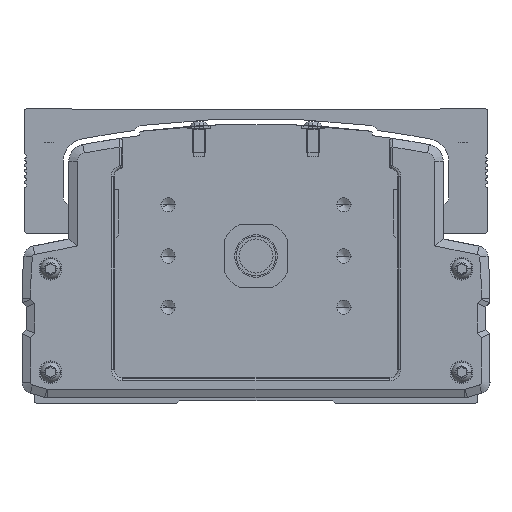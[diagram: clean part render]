
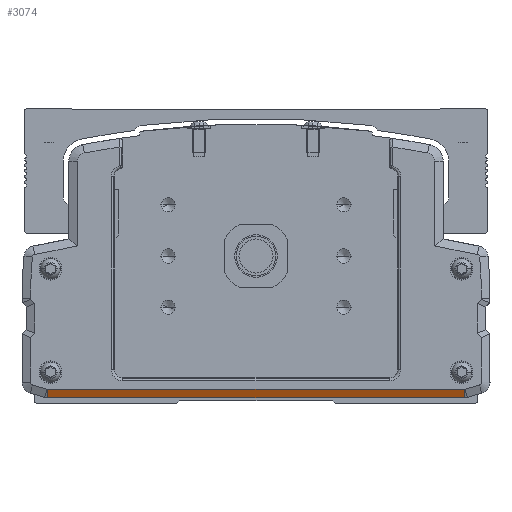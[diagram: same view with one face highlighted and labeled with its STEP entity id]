
A CAD part, front view. The second image highlights one B-rep face of the part: STEP entity #3074.
In plain terms, the highlighted planar face has unit normal (0, -0.894, -0.447).
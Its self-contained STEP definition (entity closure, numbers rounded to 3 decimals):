
#3074=ADVANCED_FACE('',(#7796),#7797,.F.);
#7796=FACE_OUTER_BOUND('',#14803,.T.);
#7797=PLANE('',#14804);
#14803=EDGE_LOOP('',(#25381,#25382,#25383,#25384));
#14804=AXIS2_PLACEMENT_3D('',#25385,#25386,#25387);
#25381=ORIENTED_EDGE('',*,*,#43688,.T.);
#25382=ORIENTED_EDGE('',*,*,#43330,.F.);
#25383=ORIENTED_EDGE('',*,*,#43689,.F.);
#25384=ORIENTED_EDGE('',*,*,#43690,.F.);
#25385=CARTESIAN_POINT('',(-599.999,-436.278,-50.001));
#25386=DIRECTION('',(0.,0.894,0.447));
#25387=DIRECTION('',(0.,0.447,-0.894));
#43330=EDGE_CURVE('',#52258,#52260,#52261,.T.);
#43688=EDGE_CURVE('',#52853,#52260,#52854,.T.);
#43689=EDGE_CURVE('',#52855,#52258,#52856,.T.);
#43690=EDGE_CURVE('',#52853,#52855,#52857,.T.);
#52258=VERTEX_POINT('',#64980);
#52260=VERTEX_POINT('',#64983);
#52261=LINE('',#64984,#64985);
#52853=VERTEX_POINT('',#65796);
#52854=LINE('',#65797,#65798);
#52855=VERTEX_POINT('',#65799);
#52856=LINE('',#65800,#65801);
#52857=LINE('',#65802,#65803);
#64980=CARTESIAN_POINT('',(-526.575,-436.278,-50.001));
#64983=CARTESIAN_POINT('',(-673.423,-436.278,-50.001));
#64984=CARTESIAN_POINT('',(-599.999,-436.278,-50.001));
#64985=VECTOR('',#80298,1000.0);
#65796=CARTESIAN_POINT('',(-673.423,-437.778,-47.001));
#65797=CARTESIAN_POINT('',(-673.423,-437.778,-47.001));
#65798=VECTOR('',#80732,1000.0);
#65799=CARTESIAN_POINT('',(-526.575,-437.778,-47.001));
#65800=CARTESIAN_POINT('',(-526.575,-437.778,-47.001));
#65801=VECTOR('',#80733,1000.0);
#65802=CARTESIAN_POINT('',(-600.015,-437.778,-47.001));
#65803=VECTOR('',#80734,1000.0);
#80298=DIRECTION('',(-1.0,0.,0.));
#80732=DIRECTION('',(0.,0.447,-0.894));
#80733=DIRECTION('',(0.,0.447,-0.894));
#80734=DIRECTION('',(1.0,0.,0.));
